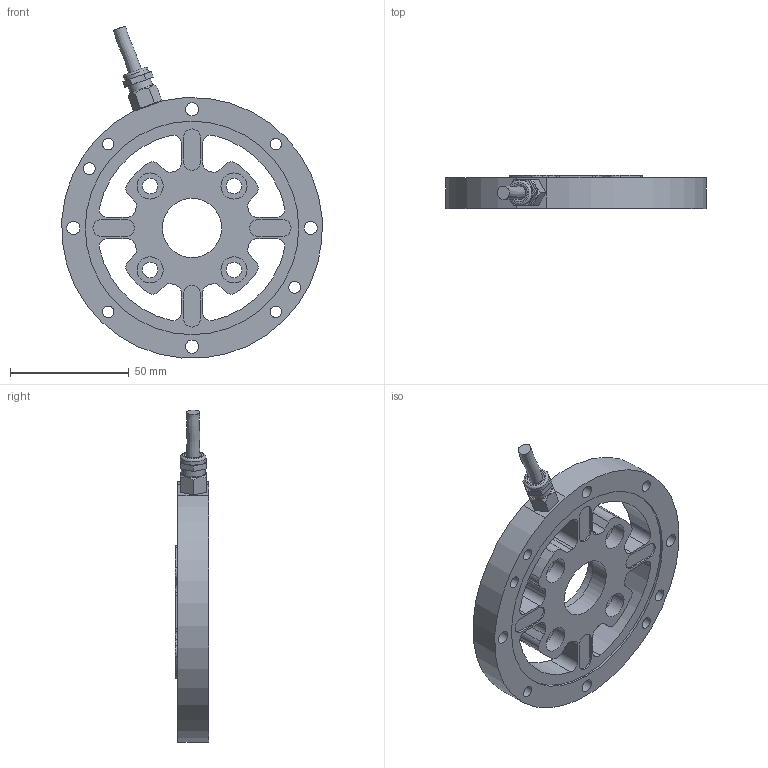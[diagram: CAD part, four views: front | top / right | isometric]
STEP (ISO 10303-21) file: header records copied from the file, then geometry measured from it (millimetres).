
FILE_DESCRIPTION(/* description */ ('Alibre Inc.'),/* implementation_level */ '2;1');
FILE_NAME(/* name */ 'export0',/* time_stamp */ '2015-11-23T17:11:58+01:00',/* author */ (''),/* organization */ (''),/* preprocessor_version */ 'ST-DEVELOPER v14',/* originating_system */ 'Alibre',/* authorisation */ '');
FILE_SCHEMA (('CONFIG_CONTROL_DESIGN'));
Length unit declared in the file: centimetre
Products named in the file (7): ID_1
Bounding box: 109.74 x 14 x 139.93 mm (x, y, z)
Volume: 83102.9 mm3; surface area: 31521.6 mm2
Topology: 4 solids, 4 shells, 212 faces, 574 edges, 382 vertices
Faces by surface type: cylinder 114, plane 90, cone 4, torus 3, bspline 1
Full cylindrical faces by diameter (mm): 4.917 x4, 5 x2, 5.5 x5, 6.6 x4, 6.917 x1, 8 x1, 10 x1, 10.8 x1, 11 x4, 25 x1, 30 x1, 90 x1
Entity records: 7248 total; most frequent: CARTESIAN_POINT 1333, DIRECTION 1060, ORIENTED_EDGE 1056, EDGE_CURVE 528, AXIS2_PLACEMENT_3D 437, VERTEX_POINT 370, FACE_BOUND 298, EDGE_LOOP 297
